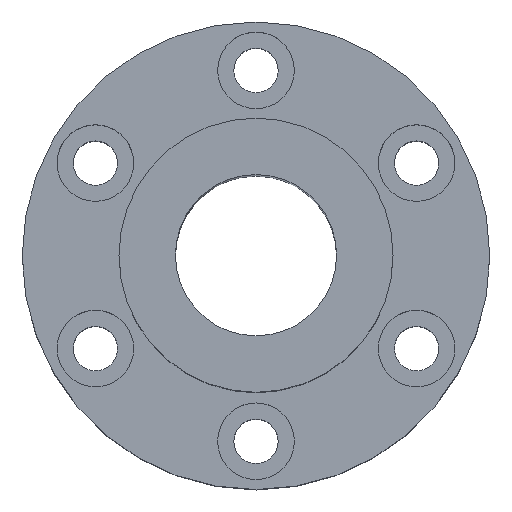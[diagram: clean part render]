
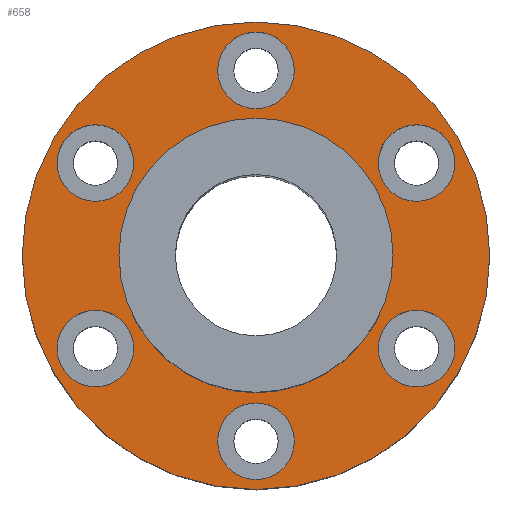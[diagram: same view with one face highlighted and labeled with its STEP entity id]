
A CAD part, top view. The second image highlights one B-rep face of the part: STEP entity #658.
In plain terms, the highlighted planar face has unit normal (0, 0, 1).
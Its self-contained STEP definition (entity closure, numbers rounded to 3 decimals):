
#1=CARTESIAN_POINT('',(0.,0.,15.));
#2=DIRECTION('',(0.,0.,1.));
#3=DIRECTION('',(1.,0.,0.));
#4=AXIS2_PLACEMENT_3D('',#1,#2,#3);
#6=CARTESIAN_POINT('',(0.,0.,15.));
#7=DIRECTION('',(0.,0.,1.));
#8=DIRECTION('',(-1.,0.,0.));
#9=AXIS2_PLACEMENT_3D('',#6,#7,#8);
#11=CARTESIAN_POINT('',(19.919,-11.5,15.));
#12=DIRECTION('',(0.,0.,-1.));
#13=DIRECTION('',(-0.5,-0.866,0.));
#14=AXIS2_PLACEMENT_3D('',#11,#12,#13);
#16=CARTESIAN_POINT('',(19.919,-11.5,15.));
#17=DIRECTION('',(0.,0.,-1.));
#18=DIRECTION('',(0.5,0.866,0.));
#19=AXIS2_PLACEMENT_3D('',#16,#17,#18);
#21=CARTESIAN_POINT('',(-19.919,-11.5,15.));
#22=DIRECTION('',(0.,0.,-1.));
#23=DIRECTION('',(-0.5,0.866,0.));
#24=AXIS2_PLACEMENT_3D('',#21,#22,#23);
#26=CARTESIAN_POINT('',(-19.919,-11.5,15.));
#27=DIRECTION('',(0.,0.,-1.));
#28=DIRECTION('',(0.5,-0.866,0.));
#29=AXIS2_PLACEMENT_3D('',#26,#27,#28);
#31=CARTESIAN_POINT('',(0.,23.,15.));
#32=DIRECTION('',(0.,0.,-1.));
#33=DIRECTION('',(1.,0.,0.));
#34=AXIS2_PLACEMENT_3D('',#31,#32,#33);
#36=CARTESIAN_POINT('',(0.,23.,15.));
#37=DIRECTION('',(0.,0.,-1.));
#38=DIRECTION('',(-1.,0.,0.));
#39=AXIS2_PLACEMENT_3D('',#36,#37,#38);
#41=CARTESIAN_POINT('',(0.,0.,15.));
#42=DIRECTION('',(0.,0.,-1.));
#43=DIRECTION('',(1.,0.,0.));
#44=AXIS2_PLACEMENT_3D('',#41,#42,#43);
#46=CARTESIAN_POINT('',(0.,0.,15.));
#47=DIRECTION('',(0.,0.,-1.));
#48=DIRECTION('',(-1.,0.,0.));
#49=AXIS2_PLACEMENT_3D('',#46,#47,#48);
#51=CARTESIAN_POINT('',(-19.919,11.5,15.));
#52=DIRECTION('',(0.,0.,-1.));
#53=DIRECTION('',(0.5,0.866,0.));
#54=AXIS2_PLACEMENT_3D('',#51,#52,#53);
#56=CARTESIAN_POINT('',(-19.919,11.5,15.));
#57=DIRECTION('',(0.,0.,-1.));
#58=DIRECTION('',(-0.5,-0.866,0.));
#59=AXIS2_PLACEMENT_3D('',#56,#57,#58);
#61=CARTESIAN_POINT('',(0.,-23.,15.));
#62=DIRECTION('',(0.,0.,-1.));
#63=DIRECTION('',(-1.,0.,0.));
#64=AXIS2_PLACEMENT_3D('',#61,#62,#63);
#66=CARTESIAN_POINT('',(0.,-23.,15.));
#67=DIRECTION('',(0.,0.,-1.));
#68=DIRECTION('',(1.,0.,0.));
#69=AXIS2_PLACEMENT_3D('',#66,#67,#68);
#71=CARTESIAN_POINT('',(19.919,11.5,15.));
#72=DIRECTION('',(0.,0.,-1.));
#73=DIRECTION('',(0.5,-0.866,0.));
#74=AXIS2_PLACEMENT_3D('',#71,#72,#73);
#76=CARTESIAN_POINT('',(19.919,11.5,15.));
#77=DIRECTION('',(0.,0.,-1.));
#78=DIRECTION('',(-0.5,0.866,0.));
#79=AXIS2_PLACEMENT_3D('',#76,#77,#78);
#533=CARTESIAN_POINT('',(-29.,0.,15.));
#535=VERTEX_POINT('',#533);
#537=CARTESIAN_POINT('',(29.,0.,15.));
#539=VERTEX_POINT('',#537);
#541=CARTESIAN_POINT('',(4.75,23.,15.));
#543=VERTEX_POINT('',#541);
#545=CARTESIAN_POINT('',(-4.75,23.,15.));
#547=VERTEX_POINT('',#545);
#549=CARTESIAN_POINT('',(-17.544,15.614,15.));
#551=VERTEX_POINT('',#549);
#553=CARTESIAN_POINT('',(-22.294,7.386,15.));
#555=VERTEX_POINT('',#553);
#557=CARTESIAN_POINT('',(-22.294,-7.386,15.));
#559=VERTEX_POINT('',#557);
#561=CARTESIAN_POINT('',(-17.544,-15.614,15.));
#563=VERTEX_POINT('',#561);
#565=CARTESIAN_POINT('',(-4.75,-23.,15.));
#567=VERTEX_POINT('',#565);
#569=CARTESIAN_POINT('',(4.75,-23.,15.));
#571=VERTEX_POINT('',#569);
#573=CARTESIAN_POINT('',(17.544,-15.614,15.));
#575=VERTEX_POINT('',#573);
#577=CARTESIAN_POINT('',(22.294,-7.386,15.));
#579=VERTEX_POINT('',#577);
#581=CARTESIAN_POINT('',(22.294,7.386,15.));
#583=VERTEX_POINT('',#581);
#585=CARTESIAN_POINT('',(17.544,15.614,15.));
#587=VERTEX_POINT('',#585);
#598=CARTESIAN_POINT('',(17.,0.,15.));
#600=VERTEX_POINT('',#598);
#602=CARTESIAN_POINT('',(-17.,0.,15.));
#604=VERTEX_POINT('',#602);
#605=CARTESIAN_POINT('',(0.,0.,15.));
#606=DIRECTION('',(0.,0.,1.));
#607=DIRECTION('',(1.,0.,0.));
#608=AXIS2_PLACEMENT_3D('',#605,#606,#607);
#609=PLANE('',#608);
#611=ORIENTED_EDGE('',*,*,#610,.F.);
#613=ORIENTED_EDGE('',*,*,#612,.F.);
#614=EDGE_LOOP('',(#611,#613));
#615=FACE_OUTER_BOUND('',#614,.F.);
#617=ORIENTED_EDGE('',*,*,#616,.F.);
#619=ORIENTED_EDGE('',*,*,#618,.F.);
#620=EDGE_LOOP('',(#617,#619));
#621=FACE_BOUND('',#620,.F.);
#623=ORIENTED_EDGE('',*,*,#622,.F.);
#625=ORIENTED_EDGE('',*,*,#624,.F.);
#626=EDGE_LOOP('',(#623,#625));
#627=FACE_BOUND('',#626,.F.);
#629=ORIENTED_EDGE('',*,*,#628,.F.);
#631=ORIENTED_EDGE('',*,*,#630,.F.);
#632=EDGE_LOOP('',(#629,#631));
#633=FACE_BOUND('',#632,.F.);
#635=ORIENTED_EDGE('',*,*,#634,.F.);
#637=ORIENTED_EDGE('',*,*,#636,.F.);
#638=EDGE_LOOP('',(#635,#637));
#639=FACE_BOUND('',#638,.F.);
#641=ORIENTED_EDGE('',*,*,#640,.F.);
#643=ORIENTED_EDGE('',*,*,#642,.F.);
#644=EDGE_LOOP('',(#641,#643));
#645=FACE_BOUND('',#644,.F.);
#647=ORIENTED_EDGE('',*,*,#646,.F.);
#649=ORIENTED_EDGE('',*,*,#648,.F.);
#650=EDGE_LOOP('',(#647,#649));
#651=FACE_BOUND('',#650,.F.);
#653=ORIENTED_EDGE('',*,*,#652,.F.);
#655=ORIENTED_EDGE('',*,*,#654,.F.);
#656=EDGE_LOOP('',(#653,#655));
#657=FACE_BOUND('',#656,.F.);
#658=ADVANCED_FACE('',(#615,#621,#627,#633,#639,#645,#651,#657),#609,.T.);
#5=CIRCLE('',#4,29.);
#10=CIRCLE('',#9,29.);
#15=CIRCLE('',#14,4.75);
#20=CIRCLE('',#19,4.75);
#25=CIRCLE('',#24,4.75);
#30=CIRCLE('',#29,4.75);
#35=CIRCLE('',#34,4.75);
#40=CIRCLE('',#39,4.75);
#45=CIRCLE('',#44,17.);
#50=CIRCLE('',#49,17.);
#55=CIRCLE('',#54,4.75);
#60=CIRCLE('',#59,4.75);
#65=CIRCLE('',#64,4.75);
#70=CIRCLE('',#69,4.75);
#75=CIRCLE('',#74,4.75);
#80=CIRCLE('',#79,4.75);
#610=EDGE_CURVE('',#539,#535,#5,.T.);
#612=EDGE_CURVE('',#535,#539,#10,.T.);
#616=EDGE_CURVE('',#575,#579,#15,.T.);
#618=EDGE_CURVE('',#579,#575,#20,.T.);
#622=EDGE_CURVE('',#559,#563,#25,.T.);
#624=EDGE_CURVE('',#563,#559,#30,.T.);
#628=EDGE_CURVE('',#543,#547,#35,.T.);
#630=EDGE_CURVE('',#547,#543,#40,.T.);
#634=EDGE_CURVE('',#600,#604,#45,.T.);
#636=EDGE_CURVE('',#604,#600,#50,.T.);
#640=EDGE_CURVE('',#551,#555,#55,.T.);
#642=EDGE_CURVE('',#555,#551,#60,.T.);
#646=EDGE_CURVE('',#567,#571,#65,.T.);
#648=EDGE_CURVE('',#571,#567,#70,.T.);
#652=EDGE_CURVE('',#583,#587,#75,.T.);
#654=EDGE_CURVE('',#587,#583,#80,.T.);
